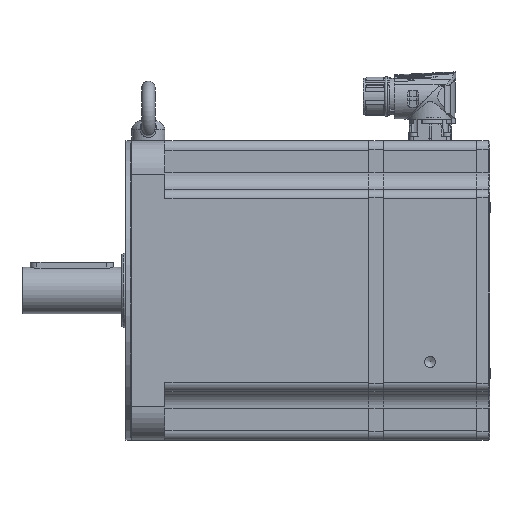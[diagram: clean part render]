
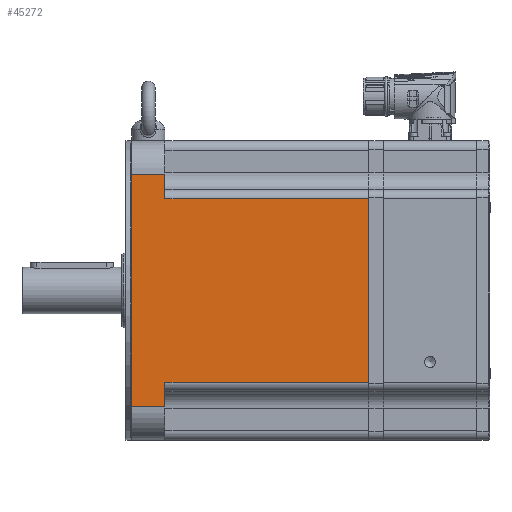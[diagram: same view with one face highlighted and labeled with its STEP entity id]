
A CAD part, left-side view. The second image highlights one B-rep face of the part: STEP entity #45272.
In plain terms, the highlighted planar face has unit normal (-1, 0, 0) as drawn and (1, 0, 0) by its records, which use the part's own axes.
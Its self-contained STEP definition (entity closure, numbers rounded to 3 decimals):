
#1323=PLANE('',#48665);
#5229=LINE('',#77327,#7145);
#5243=LINE('',#77408,#7159);
#5250=LINE('',#77453,#7166);
#5258=LINE('',#77477,#7174);
#5259=LINE('',#77478,#7175);
#5260=LINE('',#77480,#7176);
#5261=LINE('',#77482,#7177);
#5262=LINE('',#77483,#7178);
#7145=VECTOR('',#57024,1000.);
#7159=VECTOR('',#57100,1000.);
#7166=VECTOR('',#57145,1000.);
#7174=VECTOR('',#57169,1000.);
#7175=VECTOR('',#57170,1000.);
#7176=VECTOR('',#57171,1000.);
#7177=VECTOR('',#57172,1000.);
#7178=VECTOR('',#57173,1000.);
#15947=ORIENTED_EDGE('',*,*,#20511,.F.);
#15948=ORIENTED_EDGE('',*,*,#20579,.T.);
#15949=ORIENTED_EDGE('',*,*,#20547,.F.);
#15950=ORIENTED_EDGE('',*,*,#20580,.T.);
#15951=ORIENTED_EDGE('',*,*,#20581,.F.);
#15952=ORIENTED_EDGE('',*,*,#20582,.T.);
#15953=ORIENTED_EDGE('',*,*,#20567,.F.);
#15954=ORIENTED_EDGE('',*,*,#20583,.T.);
#20511=EDGE_CURVE('',#23650,#23651,#5229,.T.);
#20547=EDGE_CURVE('',#23686,#23687,#5243,.T.);
#20567=EDGE_CURVE('',#23706,#23707,#5250,.T.);
#20579=EDGE_CURVE('',#23650,#23687,#5258,.F.);
#20580=EDGE_CURVE('',#23686,#23714,#5259,.T.);
#20581=EDGE_CURVE('',#23715,#23714,#5260,.T.);
#20582=EDGE_CURVE('',#23715,#23707,#5261,.F.);
#20583=EDGE_CURVE('',#23706,#23651,#5262,.T.);
#23650=VERTEX_POINT('',#77326);
#23651=VERTEX_POINT('',#77328);
#23686=VERTEX_POINT('',#77407);
#23687=VERTEX_POINT('',#77409);
#23706=VERTEX_POINT('',#77454);
#23707=VERTEX_POINT('',#77455);
#23714=VERTEX_POINT('',#77479);
#23715=VERTEX_POINT('',#77481);
#27175=EDGE_LOOP('',(#15947,#15948,#15949,#15950,#15951,#15952,#15953,#15954));
#29830=FACE_BOUND('',#27175,.T.);
#45272=ADVANCED_FACE('',(#29830),#1323,.T.);
#48665=AXIS2_PLACEMENT_3D('',#77476,#57167,#57168);
#57024=DIRECTION('',(0.,0.,-1.));
#57100=DIRECTION('',(0.,0.,-1.));
#57145=DIRECTION('',(0.,0.,-1.));
#57167=DIRECTION('',(1.,0.,0.));
#57168=DIRECTION('',(0.,1.,0.));
#57169=DIRECTION('',(0.,1.,0.));
#57170=DIRECTION('',(0.,-1.,0.));
#57171=DIRECTION('',(0.,0.,1.));
#57172=DIRECTION('',(0.,-1.,0.));
#57173=DIRECTION('',(0.,1.,0.));
#77326=CARTESIAN_POINT('',(90.,143.8,55.2));
#77327=CARTESIAN_POINT('',(90.,143.8,-90.));
#77328=CARTESIAN_POINT('',(90.,143.8,-55.2));
#77407=CARTESIAN_POINT('',(90.,21.3,70.));
#77408=CARTESIAN_POINT('',(90.,21.3,-90.));
#77409=CARTESIAN_POINT('',(90.,21.3,55.2));
#77453=CARTESIAN_POINT('',(90.,21.3,-90.));
#77454=CARTESIAN_POINT('',(90.,21.3,-55.2));
#77455=CARTESIAN_POINT('',(90.,21.3,-70.));
#77476=CARTESIAN_POINT('',(90.,491.763,-90.));
#77477=CARTESIAN_POINT('',(90.,491.763,55.2));
#77478=CARTESIAN_POINT('',(90.,491.763,70.));
#77479=CARTESIAN_POINT('',(90.,1.3,70.));
#77480=CARTESIAN_POINT('',(90.,1.3,-90.));
#77481=CARTESIAN_POINT('',(90.,1.3,-70.));
#77482=CARTESIAN_POINT('',(90.,491.763,-70.));
#77483=CARTESIAN_POINT('',(90.,491.763,-55.2));
